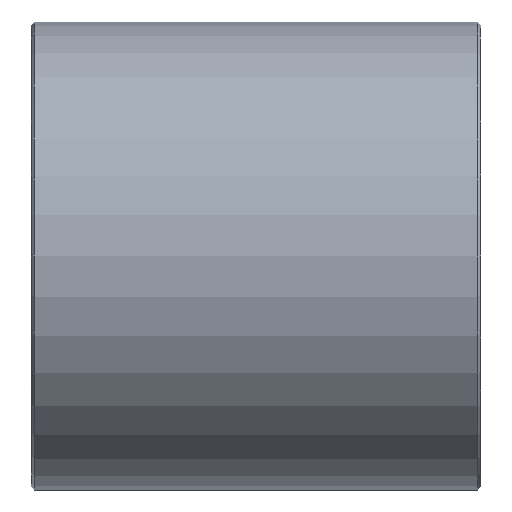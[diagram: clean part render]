
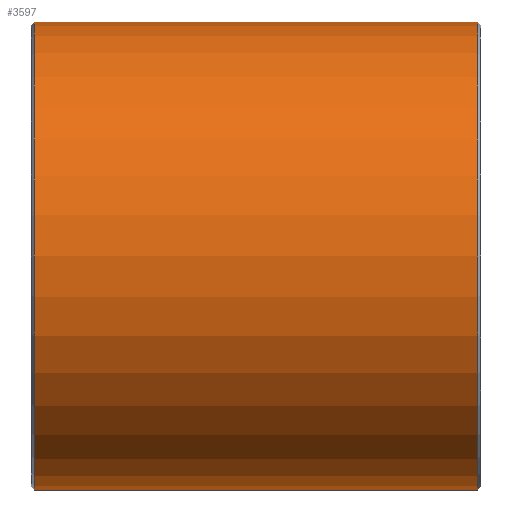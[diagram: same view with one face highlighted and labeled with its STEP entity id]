
A CAD part, front view. The second image highlights one B-rep face of the part: STEP entity #3597.
In plain terms, the highlighted cylindrical face has radius 37.5 mm (diameter 75 mm), a partial arc.
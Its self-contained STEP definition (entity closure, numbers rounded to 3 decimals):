
#96=DIRECTION('',(1.,0.,0.));
#97=VECTOR('',#96,71.);
#98=CARTESIAN_POINT('',(-35.5,0.,
-37.5));
#99=LINE('',#98,#97);
#153=CARTESIAN_POINT('',(35.5,0.,0.));
#154=DIRECTION('',(1.,0.,0.));
#155=DIRECTION('',(0.,0.,1.));
#156=AXIS2_PLACEMENT_3D('',#153,#154,#155);
#158=CARTESIAN_POINT('',(-35.5,0.,0.));
#159=DIRECTION('',(-1.,0.,0.));
#160=DIRECTION('',(0.,0.,-1.));
#161=AXIS2_PLACEMENT_3D('',#158,#159,#160);
#163=DIRECTION('',(1.,0.,0.));
#164=VECTOR('',#163,71.);
#165=CARTESIAN_POINT('',(-35.5,0.,
37.5));
#166=LINE('',#165,#164);
#3456=CARTESIAN_POINT('',(35.5,0.,37.5));
#3457=CARTESIAN_POINT('',(35.5,0.,-37.5));
#3458=VERTEX_POINT('',#3456);
#3459=VERTEX_POINT('',#3457);
#3464=CARTESIAN_POINT('',(-35.5,0.,-37.5));
#3465=CARTESIAN_POINT('',(-35.5,0.,37.5));
#3466=VERTEX_POINT('',#3464);
#3467=VERTEX_POINT('',#3465);
#3586=CARTESIAN_POINT('',(-36.,0.,0.));
#3587=DIRECTION('',(1.,0.,0.));
#3588=DIRECTION('',(0.,0.,-1.));
#3589=AXIS2_PLACEMENT_3D('',#3586,#3587,#3588);
#3590=CYLINDRICAL_SURFACE('',#3589,37.5);
#3591=ORIENTED_EDGE('',*,*,#3580,.T.);
#3592=ORIENTED_EDGE('',*,*,#3530,.F.);
#3593=ORIENTED_EDGE('',*,*,#3500,.T.);
#3594=ORIENTED_EDGE('',*,*,#3527,.T.);
#3595=EDGE_LOOP('',(#3591,#3592,#3593,#3594));
#3596=FACE_OUTER_BOUND('',#3595,.F.);
#3597=ADVANCED_FACE('',(#3596),#3590,.T.);
#157=CIRCLE('',#156,37.5);
#162=CIRCLE('',#161,37.5);
#3500=EDGE_CURVE('',#3466,#3467,#162,.T.);
#3527=EDGE_CURVE('',#3467,#3458,#166,.T.);
#3530=EDGE_CURVE('',#3466,#3459,#99,.T.);
#3580=EDGE_CURVE('',#3458,#3459,#157,.T.);
